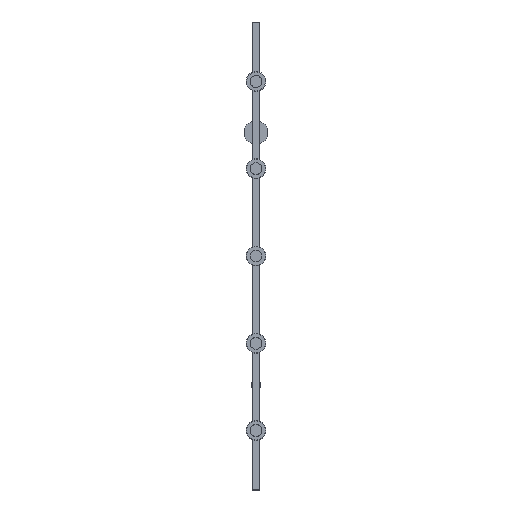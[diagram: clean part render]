
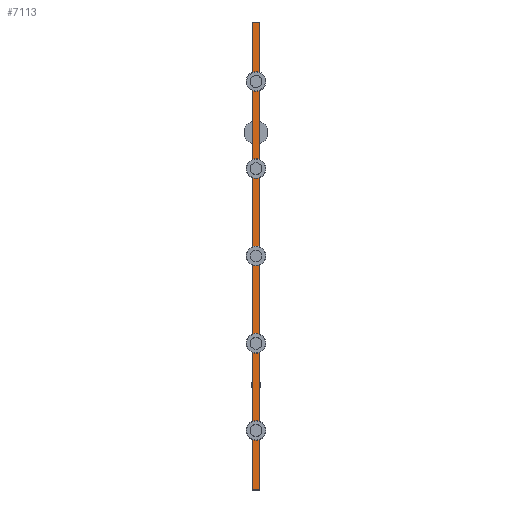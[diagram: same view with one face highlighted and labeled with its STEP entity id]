
A CAD part, front view. The second image highlights one B-rep face of the part: STEP entity #7113.
In plain terms, the highlighted planar face has unit normal (0, -1, 0).
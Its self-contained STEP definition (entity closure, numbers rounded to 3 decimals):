
#239 = VECTOR ( 'NONE', #1539, 1000. ) ;
#299 = EDGE_LOOP ( 'NONE', ( #3930, #1208, #3409, #3810 ) ) ;
#345 = VECTOR ( 'NONE', #4244, 1000. ) ;
#367 = VECTOR ( 'NONE', #1824, 1000. ) ;
#460 = EDGE_CURVE ( 'NONE', #4452, #5294, #6269, .T. ) ;
#608 = VERTEX_POINT ( 'NONE', #3741 ) ;
#640 = CARTESIAN_POINT ( 'NONE',  ( -18.049, -0.225, 1769. ) ) ;
#706 = LINE ( 'NONE', #6852, #367 ) ;
#1208 = ORIENTED_EDGE ( 'NONE', *, *, #6621, .T. ) ;
#1522 = VERTEX_POINT ( 'NONE', #6633 ) ;
#1539 = DIRECTION ( 'NONE',  ( 0., 0., 1. ) ) ;
#1818 = CARTESIAN_POINT ( 'NONE',  ( -19.049, -0.225, 1769. ) ) ;
#1824 = DIRECTION ( 'NONE',  ( 1., 0., 0. ) ) ;
#1967 = DIRECTION ( 'NONE',  ( 1., 0., 0. ) ) ;
#2177 = EDGE_CURVE ( 'NONE', #608, #1522, #706, .T. ) ;
#2507 = LINE ( 'NONE', #3195, #239 ) ;
#2624 = DIRECTION ( 'NONE',  ( 0., 1., 0. ) ) ;
#3162 = CARTESIAN_POINT ( 'NONE',  ( -19.049, -0.225, 1770. ) ) ;
#3195 = CARTESIAN_POINT ( 'NONE',  ( -0.049, -0.225, 1770. ) ) ;
#3390 = LINE ( 'NONE', #6480, #345 ) ;
#3409 = ORIENTED_EDGE ( 'NONE', *, *, #460, .T. ) ;
#3741 = CARTESIAN_POINT ( 'NONE',  ( -18.049, -0.225, 591. ) ) ;
#3810 = ORIENTED_EDGE ( 'NONE', *, *, #6160, .T. ) ;
#3930 = ORIENTED_EDGE ( 'NONE', *, *, #2177, .T. ) ;
#4037 = CARTESIAN_POINT ( 'NONE',  ( -0.049, -0.225, 1769. ) ) ;
#4244 = DIRECTION ( 'NONE',  ( 0., 0., -1. ) ) ;
#4452 = VERTEX_POINT ( 'NONE', #4037 ) ;
#5209 = VECTOR ( 'NONE', #6866, 1000. ) ;
#5294 = VERTEX_POINT ( 'NONE', #640 ) ;
#5836 = FACE_OUTER_BOUND ( 'NONE', #299, .T. ) ;
#6160 = EDGE_CURVE ( 'NONE', #5294, #608, #3390, .T. ) ;
#6269 = LINE ( 'NONE', #1818, #5209 ) ;
#6480 = CARTESIAN_POINT ( 'NONE',  ( -18.049, -0.225, 1770. ) ) ;
#6592 = AXIS2_PLACEMENT_3D ( 'NONE', #3162, #2624, #1967 ) ;
#6621 = EDGE_CURVE ( 'NONE', #1522, #4452, #2507, .T. ) ;
#6633 = CARTESIAN_POINT ( 'NONE',  ( -0.049, -0.225, 591. ) ) ;
#6852 = CARTESIAN_POINT ( 'NONE',  ( -19.049, -0.225, 591. ) ) ;
#6866 = DIRECTION ( 'NONE',  ( -1., 0., 0. ) ) ;
#7086 = PLANE ( 'NONE',  #6592 ) ;
#7113 = ADVANCED_FACE ( 'NONE', ( #5836 ), #7086, .F. ) ;
